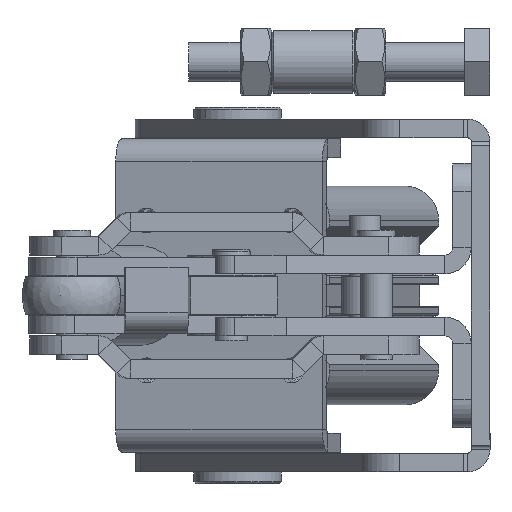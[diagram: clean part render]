
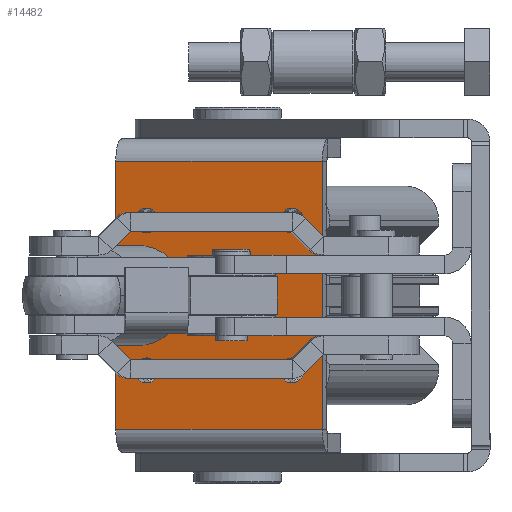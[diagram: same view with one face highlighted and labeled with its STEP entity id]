
A CAD part, left-side view. The second image highlights one B-rep face of the part: STEP entity #14482.
In plain terms, the highlighted planar face has unit normal (-0.971, 0.24, 0) as drawn and (0, -1, 0) by its records, which use the part's own axes.
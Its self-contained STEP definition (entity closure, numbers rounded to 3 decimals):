
#43 = EDGE_CURVE ( 'NONE', #11260, #9513, #14840, .T. ) ;
#49 = VECTOR ( 'NONE', #15126, 1000. ) ;
#419 = ORIENTED_EDGE ( 'NONE', *, *, #4570, .T. ) ;
#584 = CARTESIAN_POINT ( 'NONE',  ( -34., -4.75, -24. ) ) ;
#935 = VECTOR ( 'NONE', #19233, 1000. ) ;
#938 = EDGE_LOOP ( 'NONE', ( #8198, #16447 ) ) ;
#1743 = EDGE_CURVE ( 'NONE', #11260, #8930, #4123, .T. ) ;
#1856 = EDGE_CURVE ( 'NONE', #7810, #17322, #14529, .T. ) ;
#1889 = VERTEX_POINT ( 'NONE', #15037 ) ;
#2075 = CARTESIAN_POINT ( 'NONE',  ( 19., -4.75, -15.85 ) ) ;
#2273 = CARTESIAN_POINT ( 'NONE',  ( 19., -4.75, 22.15 ) ) ;
#2383 = CARTESIAN_POINT ( 'NONE',  ( 0., -4.75, 10. ) ) ;
#2418 = CARTESIAN_POINT ( 'NONE',  ( 34., -4.75, 27. ) ) ;
#2582 = CARTESIAN_POINT ( 'NONE',  ( -19., -4.75, 15.85 ) ) ;
#2631 = EDGE_LOOP ( 'NONE', ( #12675, #6497, #9401, #11617 ) ) ;
#2803 = DIRECTION ( 'NONE',  ( 0., 1., 0. ) ) ;
#2840 = FACE_BOUND ( 'NONE', #938, .T. ) ;
#3188 = VECTOR ( 'NONE', #18341, 1000. ) ;
#3489 = AXIS2_PLACEMENT_3D ( 'NONE', #3953, #14781, #5511 ) ;
#3917 = CARTESIAN_POINT ( 'NONE',  ( 19., -4.75, -22.15 ) ) ;
#3951 = EDGE_LOOP ( 'NONE', ( #18046, #20007 ) ) ;
#3953 = CARTESIAN_POINT ( 'NONE',  ( 0., -4.75, 0. ) ) ;
#4123 = LINE ( 'NONE', #15767, #49 ) ;
#4137 = CARTESIAN_POINT ( 'NONE',  ( 0., -4.75, -10. ) ) ;
#4297 = EDGE_CURVE ( 'NONE', #6357, #11356, #4963, .T. ) ;
#4570 = EDGE_CURVE ( 'NONE', #5217, #20012, #8375, .T. ) ;
#4730 = CARTESIAN_POINT ( 'NONE',  ( 19., -4.75, -19. ) ) ;
#4795 = ORIENTED_EDGE ( 'NONE', *, *, #7208, .T. ) ;
#4864 = DIRECTION ( 'NONE',  ( 0., 0., 1. ) ) ;
#4901 = CARTESIAN_POINT ( 'NONE',  ( -19., -4.75, -19. ) ) ;
#4903 = AXIS2_PLACEMENT_3D ( 'NONE', #4901, #15750, #6477 ) ;
#4909 = CARTESIAN_POINT ( 'NONE',  ( 19., -4.75, 19. ) ) ;
#4963 = CIRCLE ( 'NONE', #4903, 3.15 ) ;
#5217 = VERTEX_POINT ( 'NONE', #4137 ) ;
#5511 = DIRECTION ( 'NONE',  ( 0., 0., 1. ) ) ;
#5969 = FACE_BOUND ( 'NONE', #14225, .T. ) ;
#6215 = EDGE_CURVE ( 'NONE', #6910, #7014, #19963, .T. ) ;
#6284 = DIRECTION ( 'NONE',  ( 0., 0., -1. ) ) ;
#6357 = VERTEX_POINT ( 'NONE', #17558 ) ;
#6459 = FACE_BOUND ( 'NONE', #3951, .T. ) ;
#6477 = DIRECTION ( 'NONE',  ( 0., 0., 1. ) ) ;
#6482 = DIRECTION ( 'NONE',  ( 0., 0., 1. ) ) ;
#6497 = ORIENTED_EDGE ( 'NONE', *, *, #1743, .F. ) ;
#6591 = EDGE_CURVE ( 'NONE', #11356, #6357, #18715, .T. ) ;
#6910 = VERTEX_POINT ( 'NONE', #8238 ) ;
#7014 = VERTEX_POINT ( 'NONE', #2273 ) ;
#7208 = EDGE_CURVE ( 'NONE', #17322, #7810, #17716, .T. ) ;
#7748 = VERTEX_POINT ( 'NONE', #3917 ) ;
#7810 = VERTEX_POINT ( 'NONE', #2582 ) ;
#7928 = EDGE_CURVE ( 'NONE', #12237, #7748, #10224, .T. ) ;
#8198 = ORIENTED_EDGE ( 'NONE', *, *, #7928, .T. ) ;
#8238 = CARTESIAN_POINT ( 'NONE',  ( 19., -4.75, 15.85 ) ) ;
#8278 = ORIENTED_EDGE ( 'NONE', *, *, #10962, .T. ) ;
#8334 = DIRECTION ( 'NONE',  ( 0., 1., 0. ) ) ;
#8375 = CIRCLE ( 'NONE', #3489, 10. ) ;
#8549 = DIRECTION ( 'NONE',  ( 0., 1., 0. ) ) ;
#8780 = CARTESIAN_POINT ( 'NONE',  ( 19., -4.75, -19. ) ) ;
#8928 = CARTESIAN_POINT ( 'NONE',  ( -19., -4.75, -19. ) ) ;
#8930 = VERTEX_POINT ( 'NONE', #2418 ) ;
#9066 = CIRCLE ( 'NONE', #15508, 10. ) ;
#9098 = CARTESIAN_POINT ( 'NONE',  ( 34., -4.75, -24. ) ) ;
#9216 = CARTESIAN_POINT ( 'NONE',  ( -34., -4.75, 27. ) ) ;
#9401 = ORIENTED_EDGE ( 'NONE', *, *, #43, .T. ) ;
#9484 = PLANE ( 'NONE',  #9922 ) ;
#9513 = VERTEX_POINT ( 'NONE', #13083 ) ;
#9774 = AXIS2_PLACEMENT_3D ( 'NONE', #8928, #19728, #10464 ) ;
#9785 = DIRECTION ( 'NONE',  ( 0., 0., -1. ) ) ;
#9922 = AXIS2_PLACEMENT_3D ( 'NONE', #12597, #14136, #4864 ) ;
#10106 = FACE_BOUND ( 'NONE', #14207, .T. ) ;
#10224 = CIRCLE ( 'NONE', #15074, 3.15 ) ;
#10330 = DIRECTION ( 'NONE',  ( 0., 0., -1. ) ) ;
#10464 = DIRECTION ( 'NONE',  ( 0., 0., 1. ) ) ;
#10962 = EDGE_CURVE ( 'NONE', #7014, #6910, #19874, .T. ) ;
#11260 = VERTEX_POINT ( 'NONE', #9216 ) ;
#11356 = VERTEX_POINT ( 'NONE', #18659 ) ;
#11479 = CARTESIAN_POINT ( 'NONE',  ( -19., -4.75, 22.15 ) ) ;
#11617 = ORIENTED_EDGE ( 'NONE', *, *, #14018, .F. ) ;
#11619 = AXIS2_PLACEMENT_3D ( 'NONE', #19811, #12395, #19067 ) ;
#12083 = CARTESIAN_POINT ( 'NONE',  ( -19., -4.75, 19. ) ) ;
#12237 = VERTEX_POINT ( 'NONE', #2075 ) ;
#12395 = DIRECTION ( 'NONE',  ( 0., 1., 0. ) ) ;
#12510 = ORIENTED_EDGE ( 'NONE', *, *, #16596, .T. ) ;
#12597 = CARTESIAN_POINT ( 'NONE',  ( 52.617, -4.75, -24. ) ) ;
#12675 = ORIENTED_EDGE ( 'NONE', *, *, #19531, .F. ) ;
#13083 = CARTESIAN_POINT ( 'NONE',  ( -34., -4.75, -27. ) ) ;
#13618 = DIRECTION ( 'NONE',  ( 0., 0., -1. ) ) ;
#13874 = VECTOR ( 'NONE', #9785, 1000. ) ;
#14018 = EDGE_CURVE ( 'NONE', #1889, #9513, #17359, .T. ) ;
#14136 = DIRECTION ( 'NONE',  ( 0., 1., 0. ) ) ;
#14202 = FACE_BOUND ( 'NONE', #15567, .T. ) ;
#14207 = EDGE_LOOP ( 'NONE', ( #8278, #19200 ) ) ;
#14225 = EDGE_LOOP ( 'NONE', ( #4795, #15945 ) ) ;
#14482 = ADVANCED_FACE ( 'NONE', ( #18311, #6459, #2840, #14202, #10106, #5969 ), #9484, .F. ) ;
#14529 = CIRCLE ( 'NONE', #11619, 3.15 ) ;
#14551 = CARTESIAN_POINT ( 'NONE',  ( 52.617, -4.75, -27. ) ) ;
#14781 = DIRECTION ( 'NONE',  ( 0., 1., 0. ) ) ;
#14840 = LINE ( 'NONE', #584, #13874 ) ;
#14990 = AXIS2_PLACEMENT_3D ( 'NONE', #17778, #8549, #19358 ) ;
#15037 = CARTESIAN_POINT ( 'NONE',  ( 34., -4.75, -27. ) ) ;
#15074 = AXIS2_PLACEMENT_3D ( 'NONE', #4730, #15560, #6284 ) ;
#15126 = DIRECTION ( 'NONE',  ( 1., 0., 0. ) ) ;
#15437 = EDGE_CURVE ( 'NONE', #7748, #12237, #19742, .T. ) ;
#15508 = AXIS2_PLACEMENT_3D ( 'NONE', #17576, #8334, #19145 ) ;
#15560 = DIRECTION ( 'NONE',  ( 0., 1., 0. ) ) ;
#15567 = EDGE_LOOP ( 'NONE', ( #12510, #419 ) ) ;
#15720 = AXIS2_PLACEMENT_3D ( 'NONE', #4909, #15755, #6482 ) ;
#15750 = DIRECTION ( 'NONE',  ( 0., 1., 0. ) ) ;
#15755 = DIRECTION ( 'NONE',  ( 0., 1., 0. ) ) ;
#15767 = CARTESIAN_POINT ( 'NONE',  ( -52.617, -4.75, 27. ) ) ;
#15945 = ORIENTED_EDGE ( 'NONE', *, *, #1856, .T. ) ;
#16447 = ORIENTED_EDGE ( 'NONE', *, *, #15437, .T. ) ;
#16596 = EDGE_CURVE ( 'NONE', #20012, #5217, #9066, .T. ) ;
#17322 = VERTEX_POINT ( 'NONE', #11479 ) ;
#17359 = LINE ( 'NONE', #14551, #935 ) ;
#17558 = CARTESIAN_POINT ( 'NONE',  ( -19., -4.75, -15.85 ) ) ;
#17576 = CARTESIAN_POINT ( 'NONE',  ( 0., -4.75, 0. ) ) ;
#17716 = CIRCLE ( 'NONE', #19357, 3.15 ) ;
#17778 = CARTESIAN_POINT ( 'NONE',  ( 19., -4.75, 19. ) ) ;
#18046 = ORIENTED_EDGE ( 'NONE', *, *, #4297, .T. ) ;
#18311 = FACE_OUTER_BOUND ( 'NONE', #2631, .T. ) ;
#18341 = DIRECTION ( 'NONE',  ( 0., 0., -1. ) ) ;
#18659 = CARTESIAN_POINT ( 'NONE',  ( -19., -4.75, -22.15 ) ) ;
#18715 = CIRCLE ( 'NONE', #9774, 3.15 ) ;
#19067 = DIRECTION ( 'NONE',  ( 0., 0., -1. ) ) ;
#19120 = AXIS2_PLACEMENT_3D ( 'NONE', #8780, #19589, #10330 ) ;
#19145 = DIRECTION ( 'NONE',  ( 0., 0., 1. ) ) ;
#19168 = LINE ( 'NONE', #9098, #3188 ) ;
#19200 = ORIENTED_EDGE ( 'NONE', *, *, #6215, .T. ) ;
#19233 = DIRECTION ( 'NONE',  ( -1., 0., 0. ) ) ;
#19357 = AXIS2_PLACEMENT_3D ( 'NONE', #12083, #2803, #13618 ) ;
#19358 = DIRECTION ( 'NONE',  ( 0., 0., 1. ) ) ;
#19531 = EDGE_CURVE ( 'NONE', #8930, #1889, #19168, .T. ) ;
#19589 = DIRECTION ( 'NONE',  ( 0., 1., 0. ) ) ;
#19728 = DIRECTION ( 'NONE',  ( 0., 1., 0. ) ) ;
#19742 = CIRCLE ( 'NONE', #19120, 3.15 ) ;
#19811 = CARTESIAN_POINT ( 'NONE',  ( -19., -4.75, 19. ) ) ;
#19874 = CIRCLE ( 'NONE', #14990, 3.15 ) ;
#19963 = CIRCLE ( 'NONE', #15720, 3.15 ) ;
#20007 = ORIENTED_EDGE ( 'NONE', *, *, #6591, .T. ) ;
#20012 = VERTEX_POINT ( 'NONE', #2383 ) ;
